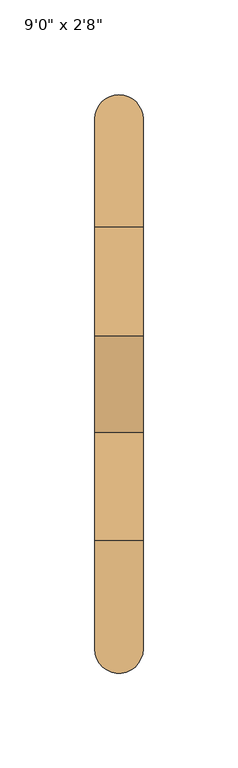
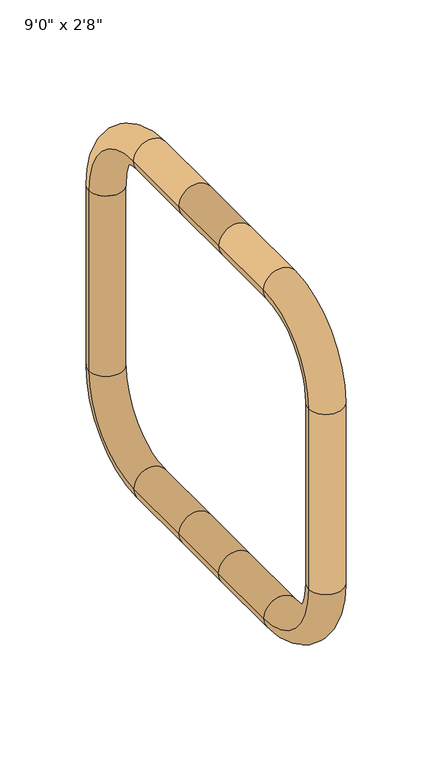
"""IFC4 building model written with IfcOpenShell, lengths in millimetres: door geometry."""

import ifcopenshell
import ifcopenshell.guid

model = None  # the IFC model being written
_history = None  # IfcOwnerHistory: only IFC2X3 demands one
_inside = {}  # id of a spatial element -> (the spatial element, [elements in it])
_under = {}  # id of a project, library or spatial element -> (it, [spatial elements below it])
_declared = {}  # id of a project -> (the project, [libraries it declares])
_typed = {}  # id of a type object -> (the type object, [elements of that type])
_made_of = {}  # id of a material, layer set ... -> (it, [elements and type objects made of it])


def new_model(schema):
    """Start an empty IFC model of exactly this schema.

    Asked for "IFC4X3", IfcOpenShell would pick the latest addendum, in which some entities
    have other attributes; the version numbers below select the first issue.
    IFC2X3 requires an IfcOwnerHistory on every rooted entity: one is made here for all.
    """
    global model, _history
    if schema == "IFC4X3":
        model = ifcopenshell.file(schema_version=(4, 3, 0, 0))
    else:
        model = ifcopenshell.file(schema=schema)
    _inside.clear()
    _under.clear()
    _declared.clear()
    _typed.clear()
    _made_of.clear()
    _history = None
    if model.schema == "IFC2X3":
        org = make("IfcOrganization", Name="unknown")
        user = make(
            "IfcPersonAndOrganization",
            ThePerson=make("IfcPerson", FamilyName="unknown"),
            TheOrganization=org,
        )
        app = make(
            "IfcApplication",
            ApplicationDeveloper=org,
            Version="unknown",
            ApplicationFullName="unknown",
            ApplicationIdentifier="unknown",
        )
        _history = make(
            "IfcOwnerHistory",
            OwningUser=user,
            OwningApplication=app,
            ChangeAction="ADDED",
            CreationDate=0,
        )
    return model


def make(cls, **values):
    """One entity of the class cls with the attributes given. An attribute that is None is left unset."""
    return model.create_entity(
        cls, **{name: value for name, value in values.items() if value is not None}
    )


def rooted(cls, **values):
    """An entity with a GlobalId (a new one), such as an element, a storey or a relation."""
    return make(cls, GlobalId=ifcopenshell.guid.new(), OwnerHistory=_history, **values)


def si_unit(unit_type, name, prefix=None):
    """IfcSIUnit, for example si_unit("LENGTHUNIT", "METRE", prefix="MILLI")."""
    return make("IfcSIUnit", UnitType=unit_type, Prefix=prefix, Name=name)


def assignment(units):
    """IfcUnitAssignment: the units of a project."""
    return None if units is None else make("IfcUnitAssignment", Units=units)


def point(xyz):
    """IfcCartesianPoint."""
    return None if xyz is None else make("IfcCartesianPoint", Coordinates=xyz)


def direction(xyz):
    """IfcDirection."""
    return None if xyz is None else make("IfcDirection", DirectionRatios=xyz)


def frame(location, z_axis=None, x_axis=None):
    """IfcAxis2Placement3D, a coordinate frame: its origin and axes. An axis left out is left unset."""
    return make(
        "IfcAxis2Placement3D",
        Location=point(location),
        Axis=direction(z_axis),
        RefDirection=direction(x_axis),
    )


def origin():
    """The frame at (0, 0, 0) with its axes left unset."""
    return frame((0.0, 0.0, 0.0))


def place(relative_to, where):
    """IfcLocalPlacement: puts the frame where relative to a parent placement (None: the world)."""
    return make(
        "IfcLocalPlacement", PlacementRelTo=relative_to, RelativePlacement=where
    )


def context(
    kind, dimensions, precision=None, world=None, true_north=None, identifier=None
):
    """IfcGeometricRepresentationContext, for example the 3D "Model" context."""
    return make(
        "IfcGeometricRepresentationContext",
        ContextIdentifier=identifier,
        ContextType=kind,
        CoordinateSpaceDimension=dimensions,
        Precision=precision,
        WorldCoordinateSystem=world,
        TrueNorth=true_north,
    )


def project(units=None, contexts=None):
    """IfcProject with its units and contexts."""
    return rooted(
        "IfcProject",
        Name="project",
        RepresentationContexts=contexts,
        UnitsInContext=assignment(units),
    )


def spatial(cls, under=None, at=None, **own):
    """A site, building, storey or space (cls), placed at a placement, below another one or the project."""
    s = rooted(cls, ObjectPlacement=at, **own)
    if under is not None:
        _under.setdefault(under.id(), (under, []))[1].append(s)
    return s


def circle_curve(where, radius):
    """IfcCircle in the frame where."""
    return make("IfcCircle", Position=where, Radius=radius)


def ellipse_curve(where, semi_axis1, semi_axis2):
    """IfcEllipse in the frame where."""
    return make(
        "IfcEllipse", Position=where, SemiAxis1=semi_axis1, SemiAxis2=semi_axis2
    )


def trimmed(basis, trim1, trim2, sense, master):
    """IfcTrimmedCurve: the piece of a basis curve between two trims."""
    return make(
        "IfcTrimmedCurve",
        BasisCurve=basis,
        Trim1=trim1,
        Trim2=trim2,
        SenseAgreement=sense,
        MasterRepresentation=master,
    )


def shape(context_of_items, identifier, shape_type, items):
    """IfcShapeRepresentation: the items that make up one representation, for example the "Body"."""
    return make(
        "IfcShapeRepresentation",
        ContextOfItems=context_of_items,
        RepresentationIdentifier=identifier,
        RepresentationType=shape_type,
        Items=items,
    )


def source(mapping_origin, context_of_items, identifier, shape_type, items):
    """IfcRepresentationMap: a shape defined once, which mapped items show again and again."""
    return make(
        "IfcRepresentationMap",
        MappingOrigin=mapping_origin,
        MappedRepresentation=shape(context_of_items, identifier, shape_type, items),
    )


def transform(
    local_origin,
    x_axis=None,
    y_axis=None,
    z_axis=None,
    scale=None,
    scale2=None,
    scale3=None,
    uniform=True,
):
    """IfcCartesianTransformationOperator3D, or its non-uniform kind. x_axis, y_axis, z_axis: its Axis1, 2, 3."""
    if uniform:
        return make(
            "IfcCartesianTransformationOperator3D",
            Axis1=direction(x_axis),
            Axis2=direction(y_axis),
            LocalOrigin=point(local_origin),
            Scale=scale,
            Axis3=direction(z_axis),
        )
    return make(
        "IfcCartesianTransformationOperator3DnonUniform",
        Axis1=direction(x_axis),
        Axis2=direction(y_axis),
        LocalOrigin=point(local_origin),
        Scale=scale,
        Axis3=direction(z_axis),
        Scale2=scale2,
        Scale3=scale3,
    )


def mapped(mapping_source, mapping_target):
    """IfcMappedItem: shows the shape of a source again, moved by a transform."""
    return make(
        "IfcMappedItem", MappingSource=mapping_source, MappingTarget=mapping_target
    )


def made_of(thing, what):
    """Note that an element or type object is made of a material, layer set ...; save() writes the relation."""
    if what is not None:
        _made_of.setdefault(what.id(), (what, []))[1].append(thing)
    return thing


def element(
    cls,
    number,
    at=None,
    inside=None,
    cuts=None,
    type_object=None,
    material=None,
    context=None,
    identifier="Body",
    shape_type=None,
    held_by="IfcProductDefinitionShape",
    body=None,
    shapes=None,
    **own,
):
    """One element of the class cls, such as IfcWall. Its Tag is "e" and its number.

    at: its placement. inside: the storey or other place that contains it. cuts: it is an
    opening in that element (IfcRelVoidsElement). A single representation is given by context,
    identifier, shape_type and body (its items); several are given by shapes. held_by: the class
    of the entity that holds the representations. save() writes the other relations.
    """
    e = rooted(cls, Tag="e%d" % number, ObjectPlacement=at, **own)
    if body is not None:
        shapes = [shape(context, identifier, shape_type, body)]
    if shapes is not None:
        e.Representation = make(held_by, Representations=shapes)
    if inside is not None:
        _inside.setdefault(inside.id(), (inside, []))[1].append(e)
    if cuts is not None:
        rooted(
            "IfcRelVoidsElement", RelatingBuildingElement=cuts, RelatedOpeningElement=e
        )
    if type_object is not None:
        _typed.setdefault(type_object.id(), (type_object, []))[1].append(e)
    return made_of(e, material)


def aggregate(whole, parts):
    """IfcRelAggregates: a whole, such as a stair, and the parts it consists of."""
    return rooted("IfcRelAggregates", RelatingObject=whole, RelatedObjects=parts)


def save(model, path):
    """Write the relations noted so far, then the file.

    IfcRelAggregates (storeys below a building ...), IfcRelContainedInSpatialStructure (elements
    in a storey), IfcRelDefinesByType, IfcRelAssociatesMaterial and IfcRelDeclares: one each for
    every whole, place, type object, material and project.
    """
    for whole, parts in _under.values():
        aggregate(whole, parts)
    for where, things in _inside.values():
        rooted(
            "IfcRelContainedInSpatialStructure",
            RelatedElements=things,
            RelatingStructure=where,
        )
    for kind, things in _typed.values():
        rooted("IfcRelDefinesByType", RelatedObjects=things, RelatingType=kind)
    for what, things in _made_of.values():
        rooted("IfcRelAssociatesMaterial", RelatedObjects=things, RelatingMaterial=what)
    for by, libraries in _declared.values():
        rooted("IfcRelDeclares", RelatingContext=by, RelatedDefinitions=libraries)
    model.write(path)


def cylinder_surface(at, radius):
    """IfcCylindricalSurface: all points at the distance radius from the z axis of the frame at."""
    return make("IfcCylindricalSurface", Position=at, Radius=radius)


def revolved_surface(curve, axis_point, axis_direction):
    """IfcSurfaceOfRevolution: the curve turned about the line through axis_point along axis_direction."""
    return make(
        "IfcSurfaceOfRevolution",
        SweptCurve=make("IfcArbitraryOpenProfileDef", ProfileType="CURVE", Curve=curve),
        AxisPosition=make("IfcAxis1Placement", Location=point(axis_point), Axis=direction(axis_direction)),
    )


def advanced_brep(points, edges, surfaces, faces):
    """IfcAdvancedBrep: a solid bounded by faces that lie on surfaces and meet in shared edges.

    An edge is (start, end): straight between two places in points (the first is 0);
    or (start, end, curve); or (start, end, curve, False) where it runs against its curve.
    A face is (place in surfaces, loops), or (place, loops, False) where it looks against
    its surface's normal. A loop lists edges by number (the first is 1), with a minus sign
    where the edge is run from its end to its start. The first loop is the outer one.
    """
    corners = [point(p) for p in points]
    vertices = [make("IfcVertexPoint", VertexGeometry=c) for c in corners]
    made = []
    for start, end, *more in edges:
        made.append(
            make(
                "IfcEdgeCurve",
                EdgeStart=vertices[start],
                EdgeEnd=vertices[end],
                EdgeGeometry=more[0] if more else make("IfcPolyline", Points=[corners[start], corners[end]]),
                SameSense=more[1] if len(more) > 1 else True,
            )
        )
    hull = []
    for where, loops, *sense in faces:
        bounds = []
        for j, loop in enumerate(loops):
            ring = [make("IfcOrientedEdge", EdgeElement=made[abs(k) - 1], Orientation=k > 0) for k in loop]
            bounds.append(
                make(
                    "IfcFaceOuterBound" if j == 0 else "IfcFaceBound",
                    Bound=make("IfcEdgeLoop", EdgeList=ring),
                    Orientation=True,
                )
            )
        hull.append(make("IfcAdvancedFace", Bounds=bounds, FaceSurface=surfaces[where], SameSense=sense[0] if sense else True))
    return make("IfcAdvancedBrep", Outer=make("IfcClosedShell", CfsFaces=hull))


def door_c850c315(model_context):
    return source(origin(), model_context, "Body", "AdvancedBrep", [
        advanced_brep(
        [(-330.2, 50.8, 1016.0), (-330.2, 107.95, 1016.0), (-355.6, 107.95, 1016.0), (-355.6, 50.8, 1016.0), (-330.2, 165.1, 958.85), (-355.6, 165.1, 958.85), (-330.2, 165.1, 819.15), (-355.6, 165.1, 819.15), (-330.2, 107.95, 762.0), (-355.6, 107.95, 762.0), (-330.2, 50.8, 762.0), (-355.6, 50.8, 762.0), (-330.2, 0.0, 1016.0), (-355.6, 0.0, 1016.0), (-355.6, 0.0, 762.0), (-355.6, -57.15, 762.0), (-330.2, -57.15, 762.0), (-330.2, 0.0, 762.0), (-355.6, -114.3, 819.15), (-330.2, -114.3, 819.15), (-355.6, -114.3, 958.85), (-330.2, -114.3, 958.85), (-355.6, -57.15, 1016.0), (-330.2, -57.15, 1016.0)],
        [
            (0, 1),
            (1, 2, circle_curve(frame((-342.9, 107.95, 1016.0), z_axis=(0.0, -1.0, 0.0), x_axis=(-1.0, 0.0, 0.0)), 12.7)),
            (2, 3),
            (3, 0, circle_curve(frame((-342.9, 50.8, 1016.0), z_axis=(0.0, 1.0, 0.0), x_axis=(-1.0, 0.0, 0.0)), 12.7)),
            (0, 3, circle_curve(frame((-342.9, 50.8, 1016.0), z_axis=(0.0, 1.0, 0.0), x_axis=(-1.0, 0.0, 0.0)), 12.7)),
            (2, 1, circle_curve(frame((-342.9, 107.95, 1016.0), z_axis=(0.0, -1.0, 0.0), x_axis=(-1.0, 0.0, 0.0)), 12.7)),
            (1, 4, circle_curve(frame((-330.2, 107.95, 958.85), z_axis=(-1.0, 0.0, 0.0), x_axis=(0.0, 0.0, 1.0)), 57.15)),
            (4, 5, circle_curve(frame((-342.9, 165.1, 958.85), z_axis=(0.0, 0.0, 1.0), x_axis=(-1.0, 0.0, 0.0)), 12.7)),
            (5, 2, circle_curve(frame((-355.6, 107.95, 958.85), z_axis=(1.0, 0.0, 0.0), x_axis=(0.0, 0.0, 1.0)), 57.15)),
            (5, 4, circle_curve(frame((-342.9, 165.1, 958.85), z_axis=(0.0, 0.0, 1.0), x_axis=(-1.0, 0.0, 0.0)), 12.7)),
            (4, 6),
            (6, 7, circle_curve(frame((-342.9, 165.1, 819.15), z_axis=(0.0, 0.0, 1.0), x_axis=(-1.0, 0.0, 0.0)), 12.7)),
            (7, 5),
            (7, 6, circle_curve(frame((-342.9, 165.1, 819.15), z_axis=(0.0, 0.0, 1.0), x_axis=(-1.0, 0.0, 0.0)), 12.7)),
            (6, 8, circle_curve(frame((-330.2, 107.95, 819.15), z_axis=(-1.0, 0.0, 0.0), x_axis=(0.0, 1.0, 0.0)), 57.15)),
            (8, 9, circle_curve(frame((-342.9, 107.95, 762.0), z_axis=(0.0, 1.0, 0.0), x_axis=(-1.0, 0.0, 0.0)), 12.7)),
            (9, 7, circle_curve(frame((-355.6, 107.95, 819.15), z_axis=(1.0, 0.0, 0.0), x_axis=(0.0, 1.0, 0.0)), 57.15)),
            (9, 8, circle_curve(frame((-342.9, 107.95, 762.0), z_axis=(0.0, 1.0, 0.0), x_axis=(-1.0, 0.0, 0.0)), 12.7)),
            (8, 10),
            (10, 11, circle_curve(frame((-342.9, 50.8, 762.0), z_axis=(0.0, 1.0, 0.0), x_axis=(-1.0, 0.0, 0.0)), 12.7)),
            (11, 9),
            (11, 10, circle_curve(frame((-342.9, 50.8, 762.0), z_axis=(0.0, 1.0, 0.0), x_axis=(-1.0, 0.0, 0.0)), 12.7)),
            (0, 12),
            (12, 13, circle_curve(frame((-342.9, 0.0, 1016.0), z_axis=(0.0, 1.0, 0.0), x_axis=(1.0, 0.0, 0.0)), 12.7)),
            (13, 3),
            (13, 12, circle_curve(frame((-342.9, 0.0, 1016.0), z_axis=(0.0, 1.0, 0.0), x_axis=(1.0, 0.0, 0.0)), 12.7)),
            (14, 15),
            (15, 16, circle_curve(frame((-342.9, -57.15, 762.0), z_axis=(0.0, 1.0, 0.0), x_axis=(-1.0, 0.0, 0.0)), 12.7)),
            (16, 17),
            (17, 14, circle_curve(frame((-342.9, 0.0, 762.0), z_axis=(0.0, -1.0, 0.0), x_axis=(-1.0, 0.0, 0.0)), 12.7)),
            (14, 17, circle_curve(frame((-342.9, 0.0, 762.0), z_axis=(0.0, -1.0, 0.0), x_axis=(-1.0, 0.0, 0.0)), 12.7)),
            (16, 15, circle_curve(frame((-342.9, -57.15, 762.0), z_axis=(0.0, 1.0, 0.0), x_axis=(-1.0, 0.0, 0.0)), 12.7)),
            (15, 18, circle_curve(frame((-355.6, -57.15, 819.15), z_axis=(-1.0, 0.0, 0.0), x_axis=(0.0, 0.0, -1.0)), 57.15)),
            (18, 19, circle_curve(frame((-342.9, -114.3, 819.15), z_axis=(0.0, 0.0, -1.0), x_axis=(-1.0, 0.0, 0.0)), 12.7)),
            (19, 16, circle_curve(frame((-330.2, -57.15, 819.15), z_axis=(1.0, 0.0, 0.0), x_axis=(0.0, 0.0, -1.0)), 57.15)),
            (19, 18, circle_curve(frame((-342.9, -114.3, 819.15), z_axis=(0.0, 0.0, -1.0), x_axis=(-1.0, 0.0, 0.0)), 12.7)),
            (18, 20),
            (20, 21, circle_curve(frame((-342.9, -114.3, 958.85), z_axis=(0.0, 0.0, -1.0), x_axis=(-1.0, 0.0, 0.0)), 12.7)),
            (21, 19),
            (21, 20, circle_curve(frame((-342.9, -114.3, 958.85), z_axis=(0.0, 0.0, -1.0), x_axis=(-1.0, 0.0, 0.0)), 12.7)),
            (20, 22, circle_curve(frame((-355.6, -57.15, 958.85), z_axis=(-1.0, 0.0, 0.0), x_axis=(0.0, -1.0, 0.0)), 57.15)),
            (22, 23, circle_curve(frame((-342.9, -57.15, 1016.0), z_axis=(0.0, -1.0, 0.0), x_axis=(-1.0, 0.0, 0.0)), 12.7)),
            (23, 21, circle_curve(frame((-330.2, -57.15, 958.85), z_axis=(1.0, 0.0, 0.0), x_axis=(0.0, -1.0, 0.0)), 57.15)),
            (23, 22, circle_curve(frame((-342.9, -57.15, 1016.0), z_axis=(0.0, -1.0, 0.0), x_axis=(-1.0, 0.0, 0.0)), 12.7)),
            (22, 13),
            (12, 23),
            (10, 17),
            (14, 11),
        ],
        [
            cylinder_surface(frame((-342.9, 50.8, 1016.0), z_axis=(0.0, -1.0, 0.0), x_axis=(-1.0, 0.0, 0.0)), 12.7),
            revolved_surface(trimmed(ellipse_curve(frame((-342.9, 107.95, 1016.0), z_axis=(0.0, -1.0, 0.0), x_axis=(-1.0, 0.0, 0.0)), 12.7, 12.7), [point((-330.2, 107.95, 1016.0))], [point((-355.6, 107.95, 1016.0))], True, "CARTESIAN"), (-342.9, 107.95, 958.85), (-1.0, 0.0, 0.0)),
            revolved_surface(trimmed(ellipse_curve(frame((-342.9, 107.95, 1016.0), z_axis=(0.0, -1.0, 0.0), x_axis=(-1.0, 0.0, 0.0)), 12.7, 12.7), [point((-355.6, 107.95, 1016.0))], [point((-330.2, 107.95, 1016.0))], True, "CARTESIAN"), (-342.9, 107.95, 958.85), (-1.0, 0.0, 0.0)),
            cylinder_surface(frame((-342.9, 165.1, 958.85), z_axis=(0.0, 0.0, 1.0), x_axis=(-1.0, 0.0, 0.0)), 12.7),
            revolved_surface(trimmed(ellipse_curve(frame((-342.9, 165.1, 819.15), z_axis=(0.0, 0.0, 1.0), x_axis=(-1.0, 0.0, 0.0)), 12.7, 12.7), [point((-330.2, 165.1, 819.15))], [point((-355.6, 165.1, 819.15))], True, "CARTESIAN"), (-342.9, 107.95, 819.15), (-1.0, 0.0, 0.0)),
            revolved_surface(trimmed(ellipse_curve(frame((-342.9, 165.1, 819.15), z_axis=(0.0, 0.0, 1.0), x_axis=(-1.0, 0.0, 0.0)), 12.7, 12.7), [point((-355.6, 165.1, 819.15))], [point((-330.2, 165.1, 819.15))], True, "CARTESIAN"), (-342.9, 107.95, 819.15), (-1.0, 0.0, 0.0)),
            cylinder_surface(frame((-342.9, 107.95, 762.0), z_axis=(0.0, 1.0, 0.0), x_axis=(-1.0, 0.0, 0.0)), 12.7),
            cylinder_surface(frame((-342.9, 0.0, 1016.0), z_axis=(0.0, 1.0, 0.0), x_axis=(1.0, 0.0, 0.0)), 12.7),
            cylinder_surface(frame((-342.9, 0.0, 762.0), z_axis=(0.0, 1.0, 0.0), x_axis=(-1.0, 0.0, 0.0)), 12.7),
            revolved_surface(trimmed(ellipse_curve(frame((-342.9, -57.15, 762.0), z_axis=(0.0, 1.0, 0.0), x_axis=(-1.0, 0.0, 0.0)), 12.7, 12.7), [point((-355.6, -57.15, 762.0))], [point((-330.2, -57.15, 762.0))], True, "CARTESIAN"), (-342.9, -57.15, 819.15), (-1.0, 0.0, 0.0)),
            revolved_surface(trimmed(ellipse_curve(frame((-342.9, -57.15, 762.0), z_axis=(0.0, 1.0, 0.0), x_axis=(-1.0, 0.0, 0.0)), 12.7, 12.7), [point((-330.2, -57.15, 762.0))], [point((-355.6, -57.15, 762.0))], True, "CARTESIAN"), (-342.9, -57.15, 819.15), (-1.0, 0.0, 0.0)),
            cylinder_surface(frame((-342.9, -114.3, 819.15), z_axis=(0.0, 0.0, -1.0), x_axis=(-1.0, 0.0, 0.0)), 12.7),
            revolved_surface(trimmed(ellipse_curve(frame((-342.9, -114.3, 958.85), z_axis=(0.0, 0.0, -1.0), x_axis=(-1.0, 0.0, 0.0)), 12.7, 12.7), [point((-355.6, -114.3, 958.85))], [point((-330.2, -114.3, 958.85))], True, "CARTESIAN"), (-342.9, -57.15, 958.85), (-1.0, 0.0, 0.0)),
            revolved_surface(trimmed(ellipse_curve(frame((-342.9, -114.3, 958.85), z_axis=(0.0, 0.0, -1.0), x_axis=(-1.0, 0.0, 0.0)), 12.7, 12.7), [point((-330.2, -114.3, 958.85))], [point((-355.6, -114.3, 958.85))], True, "CARTESIAN"), (-342.9, -57.15, 958.85), (-1.0, 0.0, 0.0)),
            cylinder_surface(frame((-342.9, -57.15, 1016.0), z_axis=(0.0, -1.0, 0.0), x_axis=(-1.0, 0.0, 0.0)), 12.7),
            cylinder_surface(frame((-342.9, 0.0, 762.0), z_axis=(0.0, 1.0, 0.0), x_axis=(1.0, 0.0, 0.0)), 12.7),
        ],
        [
            (0, [[1, 2, 3, 4]]),
            (0, [[-1, 5, -3, 6]]),
            (1, [[-2, 7, 8, 9]]),
            (2, [[-6, -9, 10, -7]]),
            (3, [[-8, 11, 12, 13]]),
            (3, [[-10, -13, 14, -11]]),
            (4, [[-12, 15, 16, 17]]),
            (5, [[-14, -17, 18, -15]]),
            (6, [[-16, 19, 20, 21]]),
            (6, [[-18, -21, 22, -19]]),
            (7, [[23, 24, 25, -5]]),
            (7, [[-23, -4, -25, 26]]),
            (8, [[27, 28, 29, 30]]),
            (8, [[-27, 31, -29, 32]]),
            (9, [[-28, 33, 34, 35]]),
            (10, [[-32, -35, 36, -33]]),
            (11, [[-34, 37, 38, 39]]),
            (11, [[-36, -39, 40, -37]]),
            (12, [[-38, 41, 42, 43]]),
            (13, [[-40, -43, 44, -41]]),
            (14, [[-42, 45, -24, 46]]),
            (14, [[-44, -46, -26, -45]]),
            (15, [[47, -31, 48, -20]]),
            (15, [[-47, -22, -48, -30]]),
        ],
    ),
    ])


if __name__ == "__main__":
    model = new_model("IFC4")
    model_context = context("Model", 3, world=origin())
    ifc_project = project(units=[si_unit("LENGTHUNIT", "METRE", prefix="MILLI")], contexts=[model_context])
    site = spatial("IfcSite", under=ifc_project)
    building = spatial("IfcBuilding", under=site)
    placement = place(None, origin())
    door_shape = door_c850c315(model_context)
    element("IfcDoor", 1, ObjectType="Planitar - Single Door_Swapper : 9'0\" x 2'8\"", at=placement, inside=building, context=model_context, shape_type="MappedRepresentation", body=[
        mapped(door_shape, transform((0.0, 0.0, 0.0), x_axis=(1.0, 0.0, 0.0), y_axis=(0.0, 1.0, 0.0), z_axis=(0.0, 0.0, 1.0))),
    ])
    save(model, "model.ifc")
